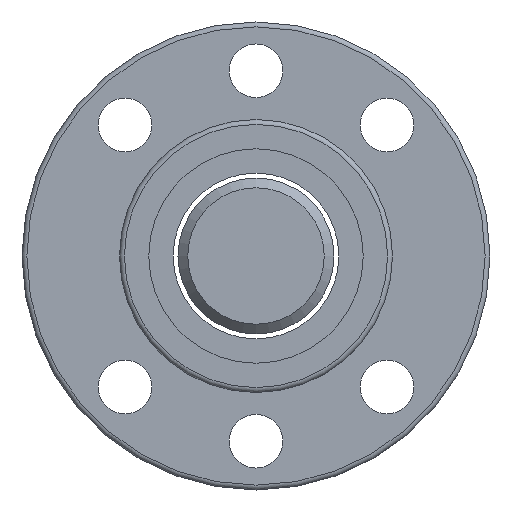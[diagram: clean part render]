
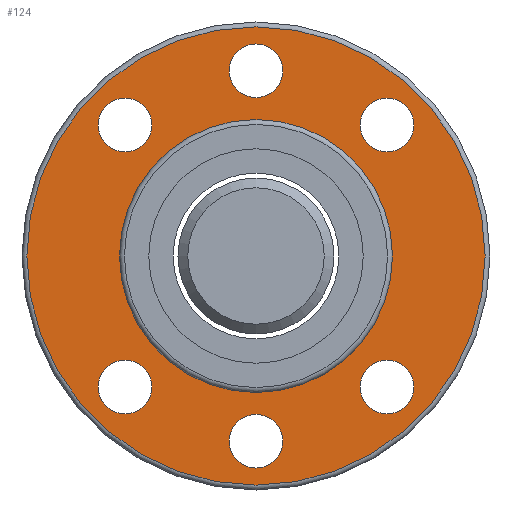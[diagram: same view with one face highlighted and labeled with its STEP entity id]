
A CAD part, left-side view. The second image highlights one B-rep face of the part: STEP entity #124.
In plain terms, the highlighted planar face has unit normal (-1, 0, 0).
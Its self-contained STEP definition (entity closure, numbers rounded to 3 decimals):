
#124=ADVANCED_FACE('',(#180,#181,#182,#183,#184,#185,#186,#167),#156,.T.);
#156=PLANE('',#509);
#167=FACE_OUTER_BOUND('',#248,.T.);
#180=FACE_BOUND('',#241,.T.);
#181=FACE_BOUND('',#242,.T.);
#182=FACE_BOUND('',#243,.T.);
#183=FACE_BOUND('',#244,.T.);
#184=FACE_BOUND('',#245,.T.);
#185=FACE_BOUND('',#246,.T.);
#186=FACE_BOUND('',#247,.T.);
#241=EDGE_LOOP('',(#315));
#242=EDGE_LOOP('',(#316));
#243=EDGE_LOOP('',(#317));
#244=EDGE_LOOP('',(#318));
#245=EDGE_LOOP('',(#319));
#246=EDGE_LOOP('',(#320));
#247=EDGE_LOOP('',(#321));
#248=EDGE_LOOP('',(#322));
#315=ORIENTED_EDGE('',*,*,#426,.F.);
#316=ORIENTED_EDGE('',*,*,#427,.F.);
#317=ORIENTED_EDGE('',*,*,#428,.F.);
#318=ORIENTED_EDGE('',*,*,#429,.F.);
#319=ORIENTED_EDGE('',*,*,#430,.F.);
#320=ORIENTED_EDGE('',*,*,#431,.F.);
#321=ORIENTED_EDGE('',*,*,#432,.T.);
#322=ORIENTED_EDGE('',*,*,#433,.F.);
#389=VERTEX_POINT('',#712);
#390=VERTEX_POINT('',#714);
#391=VERTEX_POINT('',#716);
#392=VERTEX_POINT('',#718);
#393=VERTEX_POINT('',#720);
#394=VERTEX_POINT('',#722);
#395=VERTEX_POINT('',#724);
#396=VERTEX_POINT('',#726);
#426=EDGE_CURVE('',#389,#389,#463,.T.);
#427=EDGE_CURVE('',#390,#390,#464,.T.);
#428=EDGE_CURVE('',#391,#391,#465,.T.);
#429=EDGE_CURVE('',#392,#392,#466,.T.);
#430=EDGE_CURVE('',#393,#393,#467,.T.);
#431=EDGE_CURVE('',#394,#394,#468,.T.);
#432=EDGE_CURVE('',#395,#395,#469,.T.);
#433=EDGE_CURVE('',#396,#396,#470,.T.);
#463=CIRCLE('',#501,2.75);
#464=CIRCLE('',#502,2.75);
#465=CIRCLE('',#503,2.75);
#466=CIRCLE('',#504,2.75);
#467=CIRCLE('',#505,2.75);
#468=CIRCLE('',#506,2.75);
#469=CIRCLE('',#507,14.);
#470=CIRCLE('',#508,23.5);
#501=AXIS2_PLACEMENT_3D('',#711,#572,#573);
#502=AXIS2_PLACEMENT_3D('',#713,#574,#575);
#503=AXIS2_PLACEMENT_3D('',#715,#576,#577);
#504=AXIS2_PLACEMENT_3D('',#717,#578,#579);
#505=AXIS2_PLACEMENT_3D('',#719,#580,#581);
#506=AXIS2_PLACEMENT_3D('',#721,#582,#583);
#507=AXIS2_PLACEMENT_3D('',#723,#584,#585);
#508=AXIS2_PLACEMENT_3D('',#725,#586,#587);
#509=AXIS2_PLACEMENT_3D('',#727,#588,#589);
#572=DIRECTION('',(-1.,0.,0.));
#573=DIRECTION('',(0.,-1.,0.));
#574=DIRECTION('',(-1.,0.,0.));
#575=DIRECTION('',(0.,-1.,0.));
#576=DIRECTION('',(-1.,0.,0.));
#577=DIRECTION('',(0.,-1.,0.));
#578=DIRECTION('',(-1.,0.,0.));
#579=DIRECTION('',(0.,-1.,0.));
#580=DIRECTION('',(-1.,0.,0.));
#581=DIRECTION('',(0.,-1.,0.));
#582=DIRECTION('',(-1.,0.,0.));
#583=DIRECTION('',(0.,-1.,0.));
#584=DIRECTION('',(1.,0.,0.));
#585=DIRECTION('',(0.,1.,0.));
#586=DIRECTION('',(1.,0.,0.));
#587=DIRECTION('',(0.,1.,0.));
#588=DIRECTION('',(-1.,0.,0.));
#589=DIRECTION('',(0.,-1.,0.));
#711=CARTESIAN_POINT('',(-25.,0.,-19.));
#712=CARTESIAN_POINT('',(-25.,-2.75,-19.));
#713=CARTESIAN_POINT('',(-25.,0.,19.));
#714=CARTESIAN_POINT('',(-25.,-2.75,19.));
#715=CARTESIAN_POINT('',(-25.,13.44,-13.44));
#716=CARTESIAN_POINT('',(-25.,10.69,-13.44));
#717=CARTESIAN_POINT('',(-25.,-13.44,-13.44));
#718=CARTESIAN_POINT('',(-25.,-16.19,-13.44));
#719=CARTESIAN_POINT('',(-25.,-13.44,13.44));
#720=CARTESIAN_POINT('',(-25.,-16.19,13.44));
#721=CARTESIAN_POINT('',(-25.,13.44,13.44));
#722=CARTESIAN_POINT('',(-25.,10.69,13.44));
#723=CARTESIAN_POINT('',(-25.,0.,0.));
#724=CARTESIAN_POINT('',(-25.,14.,0.));
#725=CARTESIAN_POINT('',(-25.,0.,0.));
#726=CARTESIAN_POINT('',(-25.,23.5,0.));
#727=CARTESIAN_POINT('',(-25.,18.75,0.));
